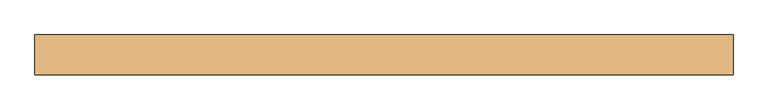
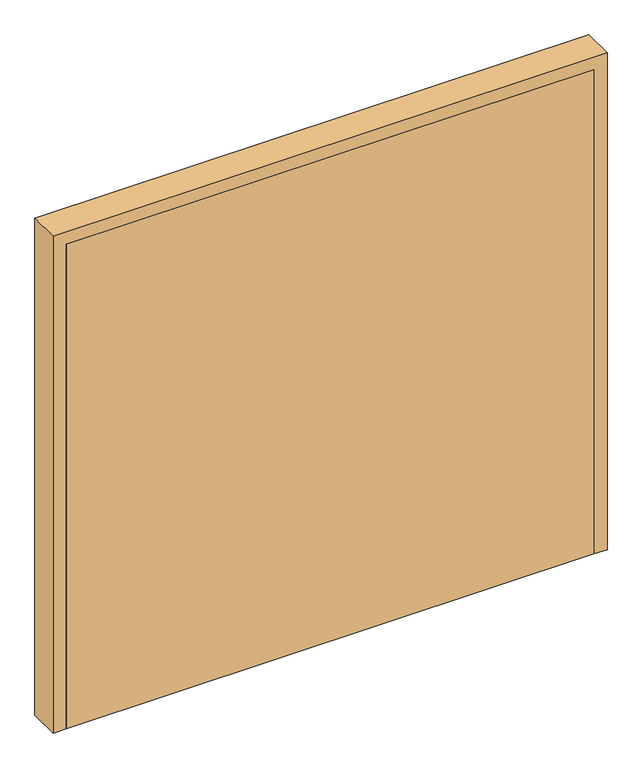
"""IFC4 building model written with IfcOpenShell, lengths in millimetres: door geometry, LOC_Pardörr : LOC_Pardörr."""

from ifc_helpers import new_model, si_unit, frame, origin, origin_with_axes, place, context, project, spatial, polyline, outline, extrude, source, transform, mapped, element, save


def door_32286c39(model_context):
    return source(origin(), model_context, "Body", "SweptSolid", [
        extrude(outline(polyline([(1005.0, -10.0), (1005.0, -60.0), (-1005.0, -60.0), (-1005.0, -10.0), (1005.0, -10.0)])), origin_with_axes(), (0.0, 0.0, 1.0), 1950.0),
        extrude(outline(polyline([(2000.0, -1055.0), (0.0, -1055.0), (0.0, -1005.0), (1950.0, -1005.0), (1950.0, 1005.0), (0.0, 1005.0), (0.0, 1055.0), (2000.0, 1055.0), (2000.0, -1055.0)])), frame((0.0, -60.0, 0.0), z_axis=(0.0, 1.0, 0.0), x_axis=(0.0, 0.0, 1.0)), (0.0, 0.0, 1.0), 120.0),
    ])


if __name__ == "__main__":
    model = new_model("IFC4")
    model_context = context("Model", 3, world=origin())
    ifc_project = project(units=[si_unit("LENGTHUNIT", "METRE", prefix="MILLI")], contexts=[model_context])
    site = spatial("IfcSite", under=ifc_project)
    building = spatial("IfcBuilding", under=site)
    placement = place(None, origin())
    door_shape = door_32286c39(model_context)
    element("IfcDoor", 1, ObjectType="LOC_Pardörr : LOC_Pardörr", at=placement, inside=building, context=model_context, shape_type="MappedRepresentation", body=[
        mapped(door_shape, transform((0.0, 0.0, 0.0), x_axis=(1.0, 0.0, 0.0), y_axis=(0.0, 1.0, 0.0), z_axis=(0.0, 0.0, 1.0))),
    ])
    save(model, "model.ifc")
